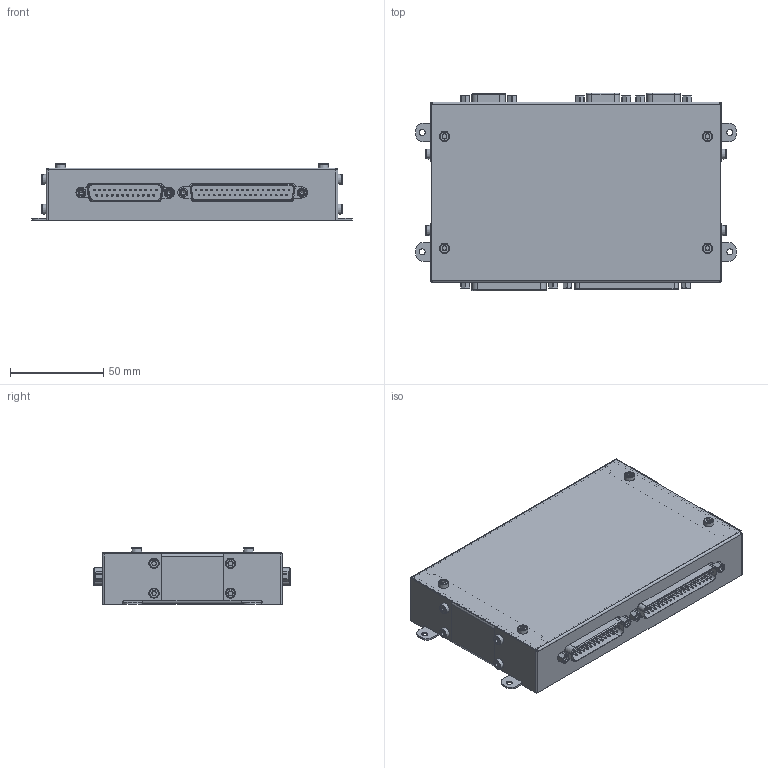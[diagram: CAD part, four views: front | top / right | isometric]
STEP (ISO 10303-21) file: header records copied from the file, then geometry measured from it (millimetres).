
FILE_DESCRIPTION(/* description */ (''),/* implementation_level */ '2;1');
FILE_NAME(/* name */ 'EMS_Dimensions_STEP.step',/* time_stamp */ '2026-02-05T13:20:24+01:00',/* author */ (''),/* organization */ (''),/* preprocessor_version */ 'ST-DEVELOPER v20.1',/* originating_system */ 'Autodesk Translation Framework v14.24.0.0',/* authorisation */ '');
FILE_SCHEMA (('AUTOMOTIVE_DESIGN { 1 0 10303 214 3 1 1 }'));
Products named in the file (1): EMS_Dimensions_STEP
Bounding box: 172 x 105.79 x 30.4 mm (x, y, z)
Volume: 425238.6 mm3; surface area: 160400.8 mm2
Topology: 58 solids, 1842 shells, 3225 faces, 12136 edges, 10707 vertices
Faces by surface type: plane 1556, cylinder 1212, cone 222, torus 113, sphere 104, bspline 18
Full cylindrical faces by diameter (mm): 0.8 x74, 2.35 x4, 2.845 x2, 2.927 x12, 3 x4, 3.2 x20, 5 x12
Entity records: 140438 total; most frequent: CARTESIAN_POINT 33861, DIRECTION 22089, ORIENTED_EDGE 15752, EDGE_CURVE 12014, VERTEX_POINT 10707, LINE 7863, VECTOR 7863, AXIS2_PLACEMENT_3D 7113
